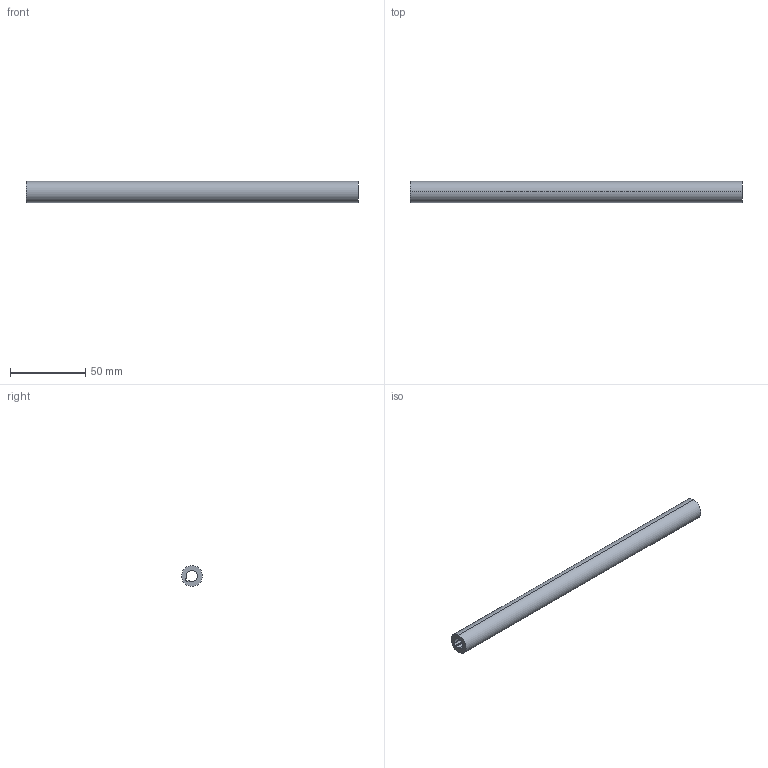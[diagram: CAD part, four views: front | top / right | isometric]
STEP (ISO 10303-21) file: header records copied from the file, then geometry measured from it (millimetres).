
FILE_DESCRIPTION (( 'STEP AP214' ), '1' );
FILE_NAME ('SyncronisationsstangeXP_KAB_350_16.step', '2009-11-24T08:53:21', ( 'Grass' ), ( 'Grass GmbH' ), 'SwSTEP 2.0', 'SolidWorks 2009', '' );
FILE_SCHEMA (( 'AUTOMOTIVE_DESIGN' ));
Length unit declared in the file: millimetre
Products named in the file (1): SyncronisationsstangeXP_KAB_350_16
Bounding box: 221 x 14 x 14 mm (x, y, z)
Volume: 23896.7 mm3; surface area: 15567.6 mm2
Topology: 1 solids, 1 shells, 15 faces, 39 edges, 26 vertices
Faces by surface type: cylinder 11, plane 4
Entity records: 513 total; most frequent: DIRECTION 93, CARTESIAN_POINT 81, ORIENTED_EDGE 78, EDGE_CURVE 39, AXIS2_PLACEMENT_3D 38, VERTEX_POINT 26, CIRCLE 22, VECTOR 17
